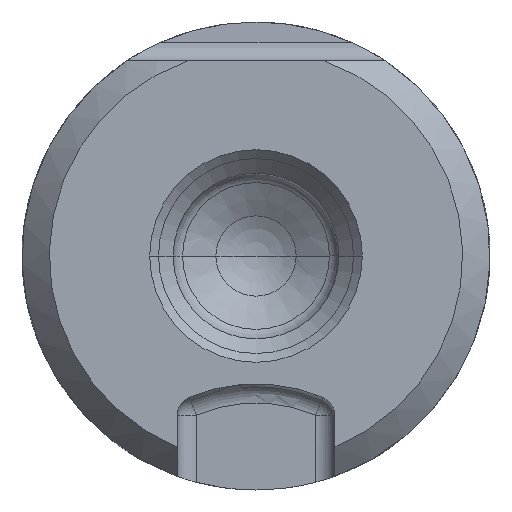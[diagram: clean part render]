
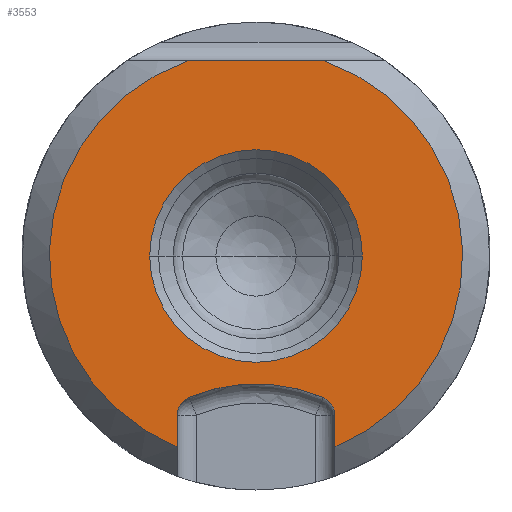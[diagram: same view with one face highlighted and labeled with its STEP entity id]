
A CAD part, left-side view. The second image highlights one B-rep face of the part: STEP entity #3553.
In plain terms, the highlighted planar face has unit normal (-1, 0, 0).
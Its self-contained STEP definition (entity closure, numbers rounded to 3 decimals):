
#985=DIRECTION('',(0.,0.,1.));
#986=VECTOR('',#985,0.808);
#987=CARTESIAN_POINT('',(-22.,8.025,-4.898));
#988=LINE('',#987,#986);
#1000=CARTESIAN_POINT('',(-22.,6.,0.));
#1001=DIRECTION('',(1.,0.,0.));
#1002=DIRECTION('',(0.,-0.332,0.943));
#1003=AXIS2_PLACEMENT_3D('',#1000,#1001,#1002);
#1005=CARTESIAN_POINT('',(-22.,4.475,-4.09));
#1006=DIRECTION('',(-1.,0.,0.));
#1007=DIRECTION('',(0.,-1.,0.));
#1008=AXIS2_PLACEMENT_3D('',#1005,#1006,#1007);
#1010=CARTESIAN_POINT('',(-22.,6.,-7.626));
#1011=DIRECTION('',(-1.,0.,0.));
#1012=DIRECTION('',(0.,-0.396,0.918));
#1013=AXIS2_PLACEMENT_3D('',#1010,#1011,#1012);
#1015=CARTESIAN_POINT('',(-22.,7.525,-4.09));
#1016=DIRECTION('',(-1.,0.,0.));
#1017=DIRECTION('',(0.,0.396,0.918));
#1018=AXIS2_PLACEMENT_3D('',#1015,#1016,#1017);
#1020=CARTESIAN_POINT('',(-22.,6.,0.));
#1021=DIRECTION('',(1.,0.,0.));
#1022=DIRECTION('',(0.,0.382,-0.924));
#1023=AXIS2_PLACEMENT_3D('',#1020,#1021,#1022);
#1025=CARTESIAN_POINT('',(-22.,6.,0.));
#1026=DIRECTION('',(-1.,0.,0.));
#1027=DIRECTION('',(0.,1.,0.));
#1028=AXIS2_PLACEMENT_3D('',#1025,#1026,#1027);
#1030=CARTESIAN_POINT('',(-22.,6.,0.));
#1031=DIRECTION('',(-1.,0.,0.));
#1032=DIRECTION('',(0.,-1.,0.));
#1033=AXIS2_PLACEMENT_3D('',#1030,#1031,#1032);
#1035=DIRECTION('',(0.,1.,0.));
#1036=VECTOR('',#1035,3.516);
#1037=CARTESIAN_POINT('',(-22.,4.242,5.));
#1038=LINE('',#1037,#1036);
#1088=DIRECTION('',(0.,0.,-1.));
#1089=VECTOR('',#1088,0.808);
#1090=CARTESIAN_POINT('',(-22.,3.975,-4.09));
#1091=LINE('',#1090,#1089);
#1678=CARTESIAN_POINT('',(-22.,8.025,-4.898));
#1679=CARTESIAN_POINT('',(-22.,8.025,-4.09));
#1680=VERTEX_POINT('',#1678);
#1681=VERTEX_POINT('',#1679);
#1682=CARTESIAN_POINT('',(-22.,4.242,5.));
#1683=CARTESIAN_POINT('',(-22.,7.758,5.));
#1684=VERTEX_POINT('',#1682);
#1685=VERTEX_POINT('',#1683);
#1686=CARTESIAN_POINT('',(-22.,3.975,-4.898));
#1687=VERTEX_POINT('',#1686);
#1688=CARTESIAN_POINT('',(-22.,3.975,-4.09));
#1689=VERTEX_POINT('',#1688);
#1690=CARTESIAN_POINT('',(-22.,4.277,-3.631));
#1691=VERTEX_POINT('',#1690);
#1692=CARTESIAN_POINT('',(-22.,7.723,-3.631));
#1693=VERTEX_POINT('',#1692);
#1694=CARTESIAN_POINT('',(-22.,8.725,0.));
#1695=CARTESIAN_POINT('',(-22.,3.275,0.));
#1696=VERTEX_POINT('',#1694);
#1697=VERTEX_POINT('',#1695);
#3525=CARTESIAN_POINT('',(-22.,12.25,-6.25));
#3526=DIRECTION('',(-1.,0.,0.));
#3527=DIRECTION('',(0.,-1.,0.));
#3528=AXIS2_PLACEMENT_3D('',#3525,#3526,#3527);
#3529=PLANE('',#3528);
#3531=ORIENTED_EDGE('',*,*,#3530,.F.);
#3533=ORIENTED_EDGE('',*,*,#3532,.T.);
#3535=ORIENTED_EDGE('',*,*,#3534,.F.);
#3537=ORIENTED_EDGE('',*,*,#3536,.T.);
#3539=ORIENTED_EDGE('',*,*,#3538,.T.);
#3541=ORIENTED_EDGE('',*,*,#3540,.T.);
#3542=ORIENTED_EDGE('',*,*,#3514,.F.);
#3544=ORIENTED_EDGE('',*,*,#3543,.T.);
#3545=EDGE_LOOP('',(#3531,#3533,#3535,#3537,#3539,#3541,#3542,#3544));
#3546=FACE_OUTER_BOUND('',#3545,.F.);
#3548=ORIENTED_EDGE('',*,*,#3547,.T.);
#3550=ORIENTED_EDGE('',*,*,#3549,.T.);
#3551=EDGE_LOOP('',(#3548,#3550));
#3552=FACE_BOUND('',#3551,.F.);
#3553=ADVANCED_FACE('',(#3546,#3552),#3529,.T.);
#1004=CIRCLE('',#1003,5.3);
#1009=CIRCLE('',#1008,0.5);
#1014=CIRCLE('',#1013,4.351);
#1019=CIRCLE('',#1018,0.5);
#1024=CIRCLE('',#1023,5.3);
#1029=CIRCLE('',#1028,2.725);
#1034=CIRCLE('',#1033,2.725);
#3514=EDGE_CURVE('',#1680,#1681,#988,.T.);
#3530=EDGE_CURVE('',#1684,#1685,#1038,.T.);
#3532=EDGE_CURVE('',#1684,#1687,#1004,.T.);
#3534=EDGE_CURVE('',#1689,#1687,#1091,.T.);
#3536=EDGE_CURVE('',#1689,#1691,#1009,.T.);
#3538=EDGE_CURVE('',#1691,#1693,#1014,.T.);
#3540=EDGE_CURVE('',#1693,#1681,#1019,.T.);
#3543=EDGE_CURVE('',#1680,#1685,#1024,.T.);
#3547=EDGE_CURVE('',#1696,#1697,#1029,.T.);
#3549=EDGE_CURVE('',#1697,#1696,#1034,.T.);
